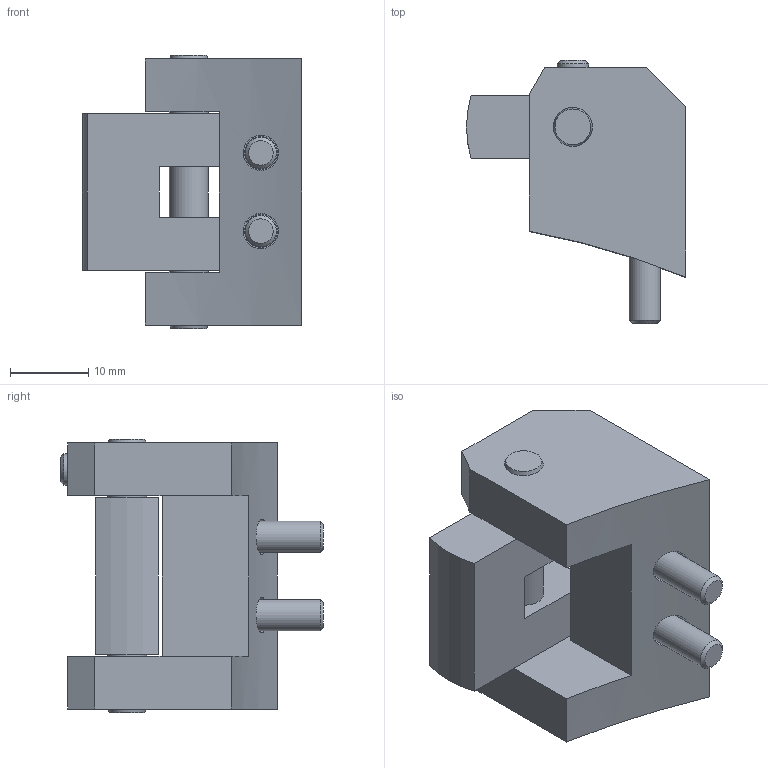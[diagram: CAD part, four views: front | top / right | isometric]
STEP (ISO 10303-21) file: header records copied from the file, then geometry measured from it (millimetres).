
FILE_DESCRIPTION(/* description */ (''),/* implementation_level */ '2;1');
FILE_NAME(/* name */ '\\dc01\daten\CAD\Standard\Daten\3D-Datenbank\SWS\4 - 3D-CAD-Daten SWS 050-160\SWS200\step-Daten\EG-SWS200-VS2.stp',/* time_stamp */ '2016-11-11T11:34:38+01:00',/* author */ ('ysplieth'),/* organization */ (''),/* preprocessor_version */ 'ST-DEVELOPER v15.2',/* originating_system */ 'Autodesk Inventor 2014',/* authorisation */ '');
FILE_SCHEMA (('AUTOMOTIVE_DESIGN { 1 0 10303 214 3 1 1 }'));
Length unit declared in the file: millimetre
Products named in the file (1): Bauteil2
Bounding box: 28 x 33.6 x 35 mm (x, y, z)
Volume: 11774.3 mm3; surface area: 6756 mm2
Topology: 2 solids, 3 shells, 86 faces, 197 edges, 128 vertices
Faces by surface type: plane 55, cylinder 18, cone 9, torus 4
Full cylindrical faces by diameter (mm): 3.3 x1, 4 x3, 4.5 x2, 5 x3, 5.1 x2, 7 x2, 8 x2
Entity records: 2389 total; most frequent: CARTESIAN_POINT 505, DIRECTION 359, ORIENTED_EDGE 326, EDGE_CURVE 162, EDGE_LOOP 132, AXIS2_PLACEMENT_3D 131, VERTEX_POINT 121, LINE 97
